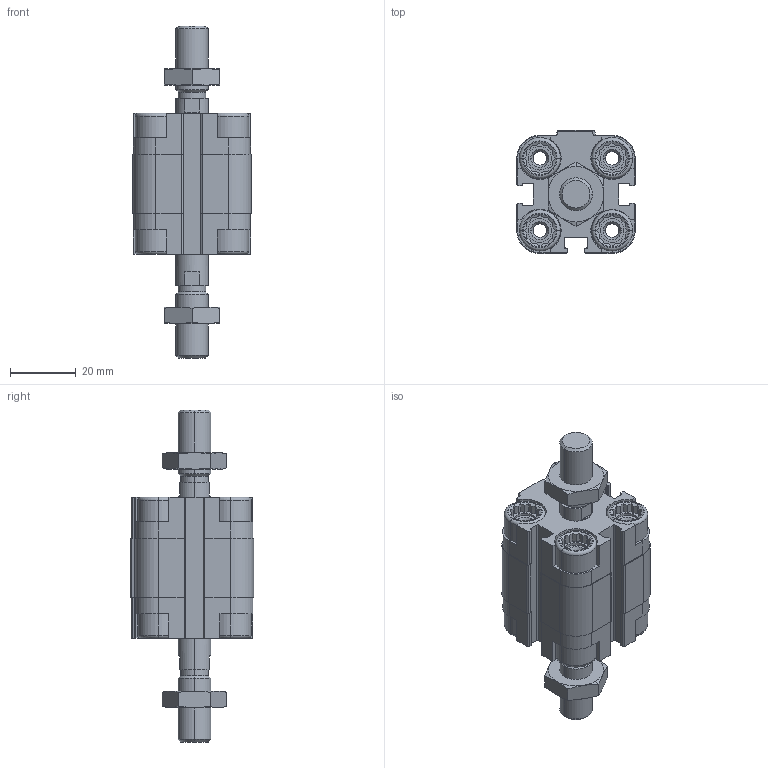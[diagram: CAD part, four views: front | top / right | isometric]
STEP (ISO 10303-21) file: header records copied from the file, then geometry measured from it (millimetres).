
FILE_DESCRIPTION (( 'STEP AP203' ), '1' );
FILE_NAME ('CDVU20-5M-P.STEP', '2020-07-21T15:06:34', ( '' ), ( '' ), 'SwSTEP 2.0', 'SolidWorks 2019', '' );
FILE_SCHEMA (( 'CONFIG_CONTROL_DESIGN' ));
Length unit declared in the file: millimetre
Products named in the file (1): CDVU20-5M-P
Bounding box: 36 x 37.5 x 101 mm (x, y, z)
Volume: 49068.6 mm3; surface area: 23513.6 mm2
Topology: 4 solids, 4 shells, 642 faces, 1674 edges, 1078 vertices
Faces by surface type: plane 374, cylinder 188, cone 64, torus 16
Entity records: 20369 total; most frequent: CARTESIAN_POINT 4535, ORIENTED_EDGE 3340, DIRECTION 3212, EDGE_CURVE 1670, AXIS2_PLACEMENT_3D 1115, VERTEX_POINT 1078, VECTOR 982, LINE 982
